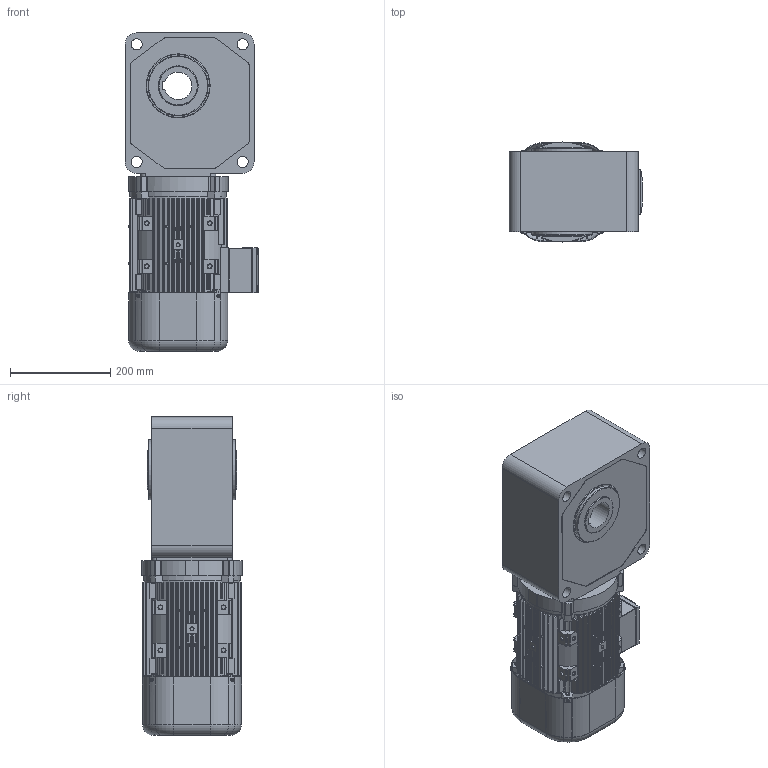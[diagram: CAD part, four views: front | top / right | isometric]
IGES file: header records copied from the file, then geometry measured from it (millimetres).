
Global section: file name: No Iges File Name specified; native system: Autodesk Inventor 2012; preprocessor: AutoDesk Inventor Iges Exporter R2012; author: jingon; date: 20130416.110609; units: millimetre
Bounding box: 267.5 x 200 x 636.5 mm (x, y, z)
Volume: 13757829.3 mm3; surface area: 1129348.1 mm2
Topology: 22 solids, 22 shells, 1771 faces, 4702 edges, 3098 vertices
Faces by surface type: plane 880, revolution 468, cylinder 344, torus 42, cone 26, bspline 11
Full cylindrical faces by diameter (mm): 4 x8, 7 x8, 8 x4, 12 x4, 13 x4, 13.4 x1, 18.4 x1, 18.6 x1, 22.2 x1, 120 x2, 188 x2
